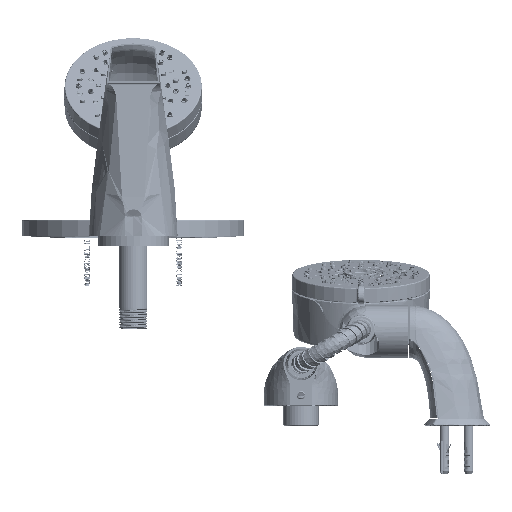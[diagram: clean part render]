
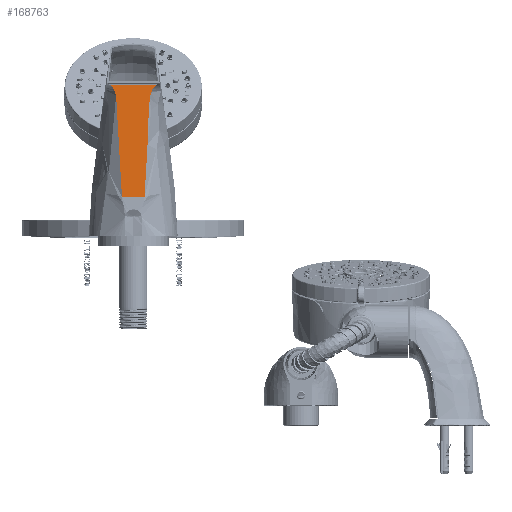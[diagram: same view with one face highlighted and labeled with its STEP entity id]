
A CAD part, front view. The second image highlights one B-rep face of the part: STEP entity #168763.
In plain terms, the highlighted planar face has unit normal (0, -0.999, 0.044).
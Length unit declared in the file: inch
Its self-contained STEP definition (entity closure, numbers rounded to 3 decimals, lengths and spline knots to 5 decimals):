
#891 = CARTESIAN_POINT ( 'NONE',  ( 1.62195, -20.6725, 6.21804 ) ) ;
#2484 = CARTESIAN_POINT ( 'NONE',  ( 1.54022, -20.5899, 8.10994 ) ) ;
#3300 = CARTESIAN_POINT ( 'NONE',  ( 2.29099, -20.68427, 5.94859 ) ) ;
#5648 = CARTESIAN_POINT ( 'NONE',  ( 1.45971, -20.55469, 8.91643 ) ) ;
#14795 = CARTESIAN_POINT ( 'NONE',  ( 2.38845, -20.60173, 7.83885 ) ) ;
#16371 = CARTESIAN_POINT ( 'NONE',  ( 2.3971, -20.58993, 8.10915 ) ) ;
#21156 = CARTESIAN_POINT ( 'NONE',  ( 2.4022, -20.58403, 8.24427 ) ) ;
#30898 = VERTEX_POINT ( 'NONE', #173908 ) ;
#34057 = B_SPLINE_CURVE_WITH_KNOTS ( 'NONE', 3,
 ( #45430, #166611, #240954, #140755, #42246, #211914, #66495, #87535, #40657, #168214, #284706, #315315, #291082, #93897, #266850, #210337, #89125, #192434, #116535, #139163, #21156, #16371, #143951, #14795, #310533, #242536, #308945, #186079, #114933, #190843, #165013, #239356 ),
 .UNSPECIFIED., .F., .F.,
 ( 4, 2, 2, 2, 2, 2, 2, 2, 2, 2, 2, 2, 2, 2, 2, 4 ),
 ( 0., 0.0013, 0.0026, 0.00521, 0.00651, 0.00781, 0.01041, 0.01301, 0.01562, 0.02082, 0.02603, 0.03123, 0.04164, 0.06247, 0.07288, 0.08329 ),
 .UNSPECIFIED. ) ;
#38556 = LINE ( 'NONE', #90208, #48070 ) ;
#40657 = CARTESIAN_POINT ( 'NONE',  ( 2.48817, -20.55339, 8.94619 ) ) ;
#40859 = VERTEX_POINT ( 'NONE', #3300 ) ;
#42246 = CARTESIAN_POINT ( 'NONE',  ( 2.56307, -20.54756, 9.07973 ) ) ;
#45430 = CARTESIAN_POINT ( 'NONE',  ( 2.62745, -20.5451, 9.13592 ) ) ;
#48070 = VECTOR ( 'NONE', #187150, 39.37008 ) ;
#51014 = CARTESIAN_POINT ( 'NONE',  ( 1.51209, -20.56778, 8.61643 ) ) ;
#54183 = CARTESIAN_POINT ( 'NONE',  ( 1.52516, -20.57515, 8.44776 ) ) ;
#55766 = CARTESIAN_POINT ( 'NONE',  ( 1.4492, -20.55329, 8.94853 ) ) ;
#66495 = CARTESIAN_POINT ( 'NONE',  ( 2.51468, -20.55063, 9.00928 ) ) ;
#68817 = CARTESIAN_POINT ( 'NONE',  ( 0.44123, -20.68427, 5.94859 ) ) ;
#70561 = CARTESIAN_POINT ( 'NONE',  ( 1.3099, -20.5451, 9.13592 ) ) ;
#73662 = CARTESIAN_POINT ( 'NONE',  ( 1.39474, -20.5487, 9.0536 ) ) ;
#76851 = CARTESIAN_POINT ( 'NONE',  ( 1.59521, -20.65482, 6.62299 ) ) ;
#87535 = CARTESIAN_POINT ( 'NONE',  ( 2.49426, -20.55268, 8.96232 ) ) ;
#89125 = CARTESIAN_POINT ( 'NONE',  ( 2.42514, -20.56784, 8.61527 ) ) ;
#90208 = CARTESIAN_POINT ( 'NONE',  ( 0.44123, -20.5451, 9.13592 ) ) ;
#93897 = CARTESIAN_POINT ( 'NONE',  ( 2.44124, -20.56199, 8.74908 ) ) ;
#94571 = CARTESIAN_POINT ( 'NONE',  ( 1.64635, -20.68427, 5.94859 ) ) ;
#97907 = CARTESIAN_POINT ( 'NONE',  ( 1.64635, -20.68427, 5.94859 ) ) ;
#99501 = CARTESIAN_POINT ( 'NONE',  ( 1.53226, -20.58105, 8.31268 ) ) ;
#101088 = CARTESIAN_POINT ( 'NONE',  ( 1.42889, -20.55126, 8.99482 ) ) ;
#108776 = ORIENTED_EDGE ( 'NONE', *, *, #304654, .T. ) ;
#114933 = CARTESIAN_POINT ( 'NONE',  ( 2.33427, -20.66073, 6.48774 ) ) ;
#116535 = CARTESIAN_POINT ( 'NONE',  ( 2.41213, -20.57519, 8.44686 ) ) ;
#120112 = EDGE_CURVE ( 'NONE', #177394, #30898, #38556, .T. ) ;
#120434 = LINE ( 'NONE', #68817, #223705 ) ;
#121998 = FACE_OUTER_BOUND ( 'NONE', #267087, .T. ) ;
#125288 = CARTESIAN_POINT ( 'NONE',  ( 1.48416, -20.559, 8.81766 ) ) ;
#139163 = CARTESIAN_POINT ( 'NONE',  ( 2.40505, -20.58108, 8.31182 ) ) ;
#140755 = CARTESIAN_POINT ( 'NONE',  ( 2.57467, -20.547, 9.09242 ) ) ;
#142166 = EDGE_CURVE ( 'NONE', #260695, #177394, #199919, .T. ) ;
#143951 = CARTESIAN_POINT ( 'NONE',  ( 2.39485, -20.59288, 8.04158 ) ) ;
#149530 = CARTESIAN_POINT ( 'NONE',  ( 1.50871, -20.56631, 8.65014 ) ) ;
#154285 = CARTESIAN_POINT ( 'NONE',  ( 1.3099, -20.5451, 9.13592 ) ) ;
#158751 = EDGE_CURVE ( 'NONE', #30898, #40859, #34057, .T. ) ;
#165013 = CARTESIAN_POINT ( 'NONE',  ( 2.30439, -20.67839, 6.08318 ) ) ;
#166611 = CARTESIAN_POINT ( 'NONE',  ( 2.61311, -20.54552, 9.12628 ) ) ;
#167345 = DIRECTION ( 'NONE',  ( 1., 0., 0. ) ) ;
#168214 = CARTESIAN_POINT ( 'NONE',  ( 2.47732, -20.5548, 8.91382 ) ) ;
#168763 = ADVANCED_FACE ( 'NONE', ( #121998 ), #244837, .F. ) ;
#172197 = CARTESIAN_POINT ( 'NONE',  ( 1.32412, -20.54552, 9.12636 ) ) ;
#173908 = CARTESIAN_POINT ( 'NONE',  ( 2.62745, -20.5451, 9.13592 ) ) ;
#175372 = CARTESIAN_POINT ( 'NONE',  ( 1.60307, -20.66072, 6.48793 ) ) ;
#176938 = CARTESIAN_POINT ( 'NONE',  ( 1.54247, -20.59285, 8.04234 ) ) ;
#177394 = VERTEX_POINT ( 'NONE', #70561 ) ;
#186079 = CARTESIAN_POINT ( 'NONE',  ( 2.34213, -20.65483, 6.62277 ) ) ;
#187150 = DIRECTION ( 'NONE',  ( 1., 0., 0. ) ) ;
#190843 = CARTESIAN_POINT ( 'NONE',  ( 2.31539, -20.6725, 6.21796 ) ) ;
#191549 = CARTESIAN_POINT ( 'NONE',  ( 0.44123, -20.68427, 5.94859 ) ) ;
#192434 = CARTESIAN_POINT ( 'NONE',  ( 2.41634, -20.57224, 8.5144 ) ) ;
#196435 = CARTESIAN_POINT ( 'NONE',  ( 1.49582, -20.56191, 8.75098 ) ) ;
#199639 = CARTESIAN_POINT ( 'NONE',  ( 1.40427, -20.54932, 9.03937 ) ) ;
#199919 = B_SPLINE_CURVE_WITH_KNOTS ( 'NONE', 3,
 ( #97907, #202776, #891, #175372, #76851, #270827, #272425, #246552, #277165, #176938, #2484, #249710, #99501, #54183, #227052, #51014, #149530, #248131, #196435, #125288, #223903, #5648, #55766, #101088, #295073, #199639, #73662, #225483, #298254, #201211, #172197, #154285 ),
 .UNSPECIFIED., .F., .F.,
 ( 4, 2, 2, 2, 2, 2, 2, 2, 2, 2, 2, 2, 2, 2, 2, 4 ),
 ( 0., 0.01032, 0.02063, 0.04127, 0.05159, 0.05674, 0.0619, 0.06706, 0.06964, 0.07222, 0.0748, 0.07738, 0.07867, 0.07996, 0.08125, 0.08254 ),
 .UNSPECIFIED. ) ;
#201211 = CARTESIAN_POINT ( 'NONE',  ( 1.33763, -20.54599, 9.1157 ) ) ;
#202776 = CARTESIAN_POINT ( 'NONE',  ( 1.63295, -20.67839, 6.08322 ) ) ;
#204341 = ORIENTED_EDGE ( 'NONE', *, *, #158751, .F. ) ;
#210337 = CARTESIAN_POINT ( 'NONE',  ( 2.4285, -20.56637, 8.64883 ) ) ;
#211914 = CARTESIAN_POINT ( 'NONE',  ( 2.53125, -20.54934, 9.03898 ) ) ;
#223705 = VECTOR ( 'NONE', #167345, 39.37008 ) ;
#223903 = CARTESIAN_POINT ( 'NONE',  ( 1.47725, -20.55755, 8.85083 ) ) ;
#225483 = CARTESIAN_POINT ( 'NONE',  ( 1.37387, -20.54754, 9.08017 ) ) ;
#227052 = CARTESIAN_POINT ( 'NONE',  ( 1.52095, -20.5722, 8.51528 ) ) ;
#238454 = DIRECTION ( 'NONE',  ( 0., 0.999, -0.044 ) ) ;
#239356 = CARTESIAN_POINT ( 'NONE',  ( 2.29099, -20.68427, 5.94859 ) ) ;
#240354 = ORIENTED_EDGE ( 'NONE', *, *, #120112, .F. ) ;
#240954 = CARTESIAN_POINT ( 'NONE',  ( 2.59968, -20.54599, 9.11567 ) ) ;
#242536 = CARTESIAN_POINT ( 'NONE',  ( 2.37199, -20.62534, 7.2982 ) ) ;
#244837 = PLANE ( 'NONE',  #288536 ) ;
#246552 = CARTESIAN_POINT ( 'NONE',  ( 1.55275, -20.60761, 7.7043 ) ) ;
#248131 = CARTESIAN_POINT ( 'NONE',  ( 1.50056, -20.56337, 8.71745 ) ) ;
#249710 = CARTESIAN_POINT ( 'NONE',  ( 1.53511, -20.584, 8.24511 ) ) ;
#260695 = VERTEX_POINT ( 'NONE', #94571 ) ;
#266850 = CARTESIAN_POINT ( 'NONE',  ( 2.43655, -20.56345, 8.71573 ) ) ;
#267087 = EDGE_LOOP ( 'NONE', ( #299496, #108776, #204341, #240354 ) ) ;
#270827 = CARTESIAN_POINT ( 'NONE',  ( 1.57478, -20.63712, 7.02828 ) ) ;
#272425 = CARTESIAN_POINT ( 'NONE',  ( 1.56534, -20.62532, 7.29866 ) ) ;
#277165 = CARTESIAN_POINT ( 'NONE',  ( 1.54887, -20.60171, 7.83952 ) ) ;
#284706 = CARTESIAN_POINT ( 'NONE',  ( 2.47254, -20.55551, 8.89753 ) ) ;
#288536 = AXIS2_PLACEMENT_3D ( 'NONE', #191549, #238454, #293368 ) ;
#291082 = CARTESIAN_POINT ( 'NONE',  ( 2.45275, -20.5591, 8.81544 ) ) ;
#293368 = DIRECTION ( 'NONE',  ( 0., 0.044, 0.999 ) ) ;
#295073 = CARTESIAN_POINT ( 'NONE',  ( 1.42136, -20.5506, 9.00995 ) ) ;
#298254 = CARTESIAN_POINT ( 'NONE',  ( 1.36247, -20.54699, 9.09261 ) ) ;
#299496 = ORIENTED_EDGE ( 'NONE', *, *, #142166, .F. ) ;
#304654 = EDGE_CURVE ( 'NONE', #260695, #40859, #120434, .T. ) ;
#308945 = CARTESIAN_POINT ( 'NONE',  ( 2.36255, -20.63714, 7.02793 ) ) ;
#310533 = CARTESIAN_POINT ( 'NONE',  ( 2.38458, -20.60764, 7.70368 ) ) ;
#315315 = CARTESIAN_POINT ( 'NONE',  ( 2.45957, -20.55765, 8.84845 ) ) ;
